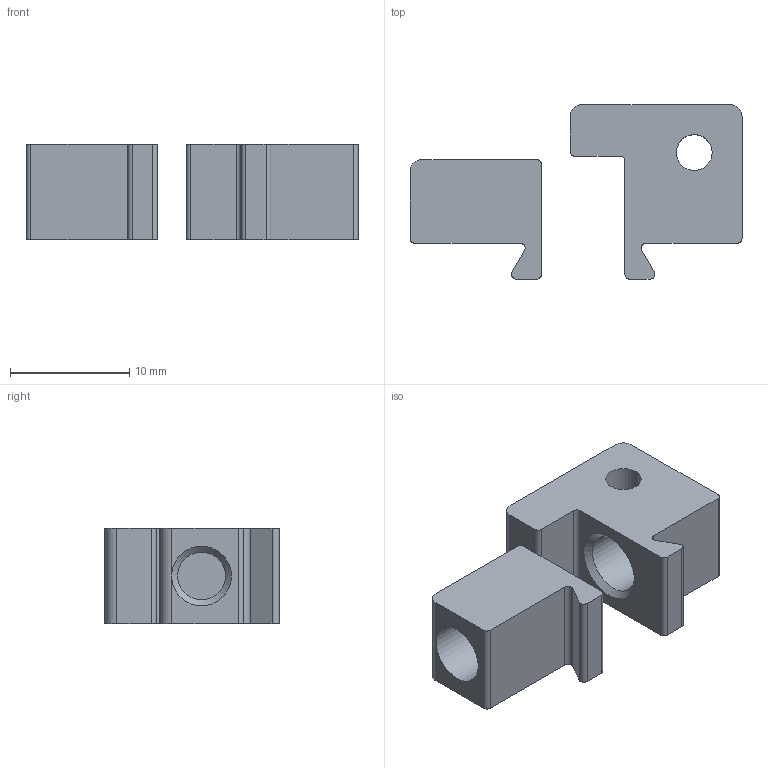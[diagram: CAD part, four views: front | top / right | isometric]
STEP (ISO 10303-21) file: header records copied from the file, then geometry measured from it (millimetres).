
FILE_DESCRIPTION((''),'2;1');
FILE_NAME('C:\TurckZip\KLN-3-ASS.stp','2006-11-20T08:49:36',('IKOROL'),(''),'Autodesk Inventor 11','Autodesk Inventor 11','');
FILE_SCHEMA(('AUTOMOTIVE_DESIGN { 1 0 10303 214 1 1 1 1 }'));
Length unit declared in the file: millimetre
Products named in the file (1): Part5
Bounding box: 27.8 x 14.6 x 8 mm (x, y, z)
Volume: 1339.8 mm3; surface area: 1551.3 mm2
Topology: 2 solids, 2 shells, 38 faces, 99 edges, 65 vertices
Faces by surface type: plane 19, cylinder 17, cone 2
Full cylindrical faces by diameter (mm): 3 x1, 5 x2
Entity records: 1171 total; most frequent: DIRECTION 207, CARTESIAN_POINT 196, ORIENTED_EDGE 186, EDGE_CURVE 93, AXIS2_PLACEMENT_3D 75, VERTEX_POINT 64, VECTOR 57, LINE 57
